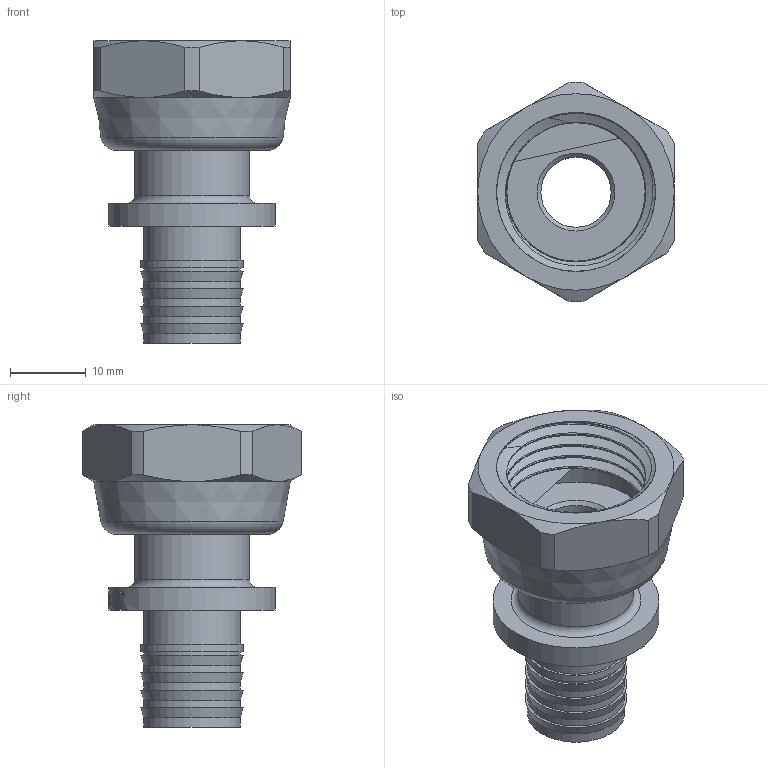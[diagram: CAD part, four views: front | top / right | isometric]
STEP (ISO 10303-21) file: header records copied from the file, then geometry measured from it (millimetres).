
FILE_DESCRIPTION(/* description */ (''),/* implementation_level */ '2;1');
FILE_NAME(/* name */ 'C:\Users\Doom\Desktop\Фадотех\Натяжка\SFM31 16x1_2 06.08.2020\SFM31 16x1_2 06.08.2020.stp',/* time_stamp */ '2022-07-25T17:07:26+03:00',/* author */ ('Doom'),/* organization */ (''),/* preprocessor_version */ 'ST-DEVELOPER v18',/* originating_system */ 'Autodesk Inventor 2020',/* authorisation */ '');
FILE_SCHEMA (('AUTOMOTIVE_DESIGN { 1 0 10303 214 3 1 1 }'));
Length unit declared in the file: millimetre
Products named in the file (3): SFM31 16x1_2 06.08.2020; SFM31_NEW_1; SFM31_NEW_2
Assembly tree (2 placements, depth 2):
  SFM31 16x1_2 06.08.2020
    SFM31_NEW_1
    SFM31_NEW_2
Bounding box: 26 x 29 x 40 mm (x, y, z)
Volume: 6970 mm3; surface area: 7226 mm2
Topology: 3 solids, 3 shells, 170 faces, 468 edges, 322 vertices
Faces by surface type: plane 65, bspline 57, cylinder 34, cone 11, torus 3
Full cylindrical faces by diameter (mm): 9.3 x1, 12.8 x6, 13.5 x1, 15.2 x1, 18.31 x4, 18.7 x1, 21 x2, 22 x1
Entity records: 9216 total; most frequent: CARTESIAN_POINT 5054, ORIENTED_EDGE 932, DIRECTION 710, EDGE_CURVE 466, VERTEX_POINT 321, AXIS2_PLACEMENT_3D 269, EDGE_LOOP 195, LINE 172
